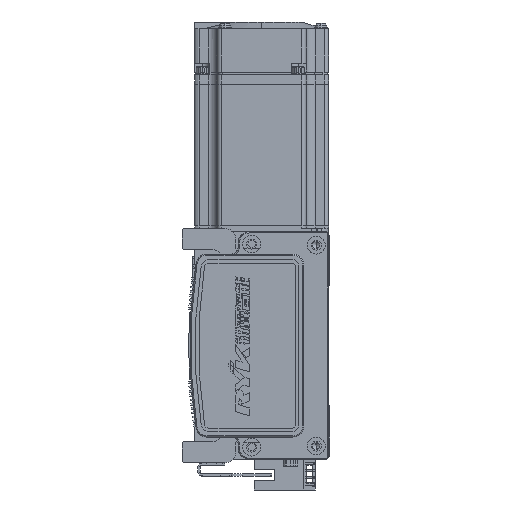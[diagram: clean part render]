
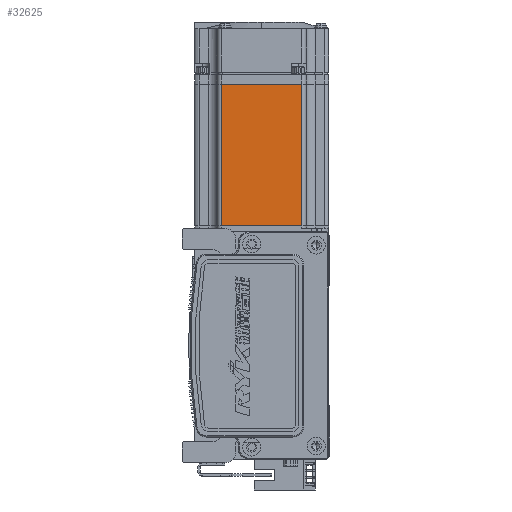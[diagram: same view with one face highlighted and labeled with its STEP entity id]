
A CAD part, left-side view. The second image highlights one B-rep face of the part: STEP entity #32625.
In plain terms, the highlighted planar face has unit normal (-1, 0, 0) as drawn and (0, 0, -1) by its records, which use the part's own axes.
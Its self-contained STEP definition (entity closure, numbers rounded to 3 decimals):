
#999 = FACE_OUTER_BOUND ( 'NONE', #7479, .T. ) ;
#1330 = CARTESIAN_POINT ( 'NONE',  ( -6.5, -18., -30. ) ) ;
#1529 = AXIS2_PLACEMENT_3D ( 'NONE', #65981, #71247, #33475 ) ;
#1819 = LINE ( 'NONE', #60696, #55996 ) ;
#3503 = ORIENTED_EDGE ( 'NONE', *, *, #11335, .T. ) ;
#4294 = CARTESIAN_POINT ( 'NONE',  ( -70.95, -18., -30. ) ) ;
#6016 = VECTOR ( 'NONE', #56654, 1000. ) ;
#6767 = CARTESIAN_POINT ( 'NONE',  ( -70.95, 25., -30. ) ) ;
#7049 = VERTEX_POINT ( 'NONE', #4294 ) ;
#7479 = EDGE_LOOP ( 'NONE', ( #44964, #42645, #45218, #3503 ) ) ;
#8066 = DIRECTION ( 'NONE',  ( 1., 0., 0. ) ) ;
#8846 = EDGE_CURVE ( 'NONE', #15119, #21752, #1819, .T. ) ;
#11335 = EDGE_CURVE ( 'NONE', #19793, #15119, #35870, .T. ) ;
#12603 = CARTESIAN_POINT ( 'NONE',  ( -7.75, 18., -30. ) ) ;
#15119 = VERTEX_POINT ( 'NONE', #12603 ) ;
#15252 = VECTOR ( 'NONE', #8066, 1000. ) ;
#19382 = VECTOR ( 'NONE', #39969, 1000. ) ;
#19793 = VERTEX_POINT ( 'NONE', #23521 ) ;
#20637 = LINE ( 'NONE', #1330, #6016 ) ;
#21093 = LINE ( 'NONE', #6767, #19382 ) ;
#21752 = VERTEX_POINT ( 'NONE', #55208 ) ;
#23521 = CARTESIAN_POINT ( 'NONE',  ( -70.95, 18., -30. ) ) ;
#27101 = EDGE_CURVE ( 'NONE', #21752, #7049, #20637, .T. ) ;
#30245 = EDGE_CURVE ( 'NONE', #7049, #19793, #21093, .T. ) ;
#32625 = ADVANCED_FACE ( 'NONE', ( #999 ), #54859, .T. ) ;
#33475 = DIRECTION ( 'NONE',  ( -1., 0., 0. ) ) ;
#35870 = LINE ( 'NONE', #46108, #15252 ) ;
#39969 = DIRECTION ( 'NONE',  ( 0., 1., 0. ) ) ;
#42645 = ORIENTED_EDGE ( 'NONE', *, *, #27101, .T. ) ;
#44964 = ORIENTED_EDGE ( 'NONE', *, *, #8846, .T. ) ;
#45218 = ORIENTED_EDGE ( 'NONE', *, *, #30245, .T. ) ;
#46108 = CARTESIAN_POINT ( 'NONE',  ( -6.5, 18., -30. ) ) ;
#50375 = DIRECTION ( 'NONE',  ( 0., -1., 0. ) ) ;
#54859 = PLANE ( 'NONE',  #1529 ) ;
#55208 = CARTESIAN_POINT ( 'NONE',  ( -7.75, -18., -30. ) ) ;
#55996 = VECTOR ( 'NONE', #50375, 1000. ) ;
#56654 = DIRECTION ( 'NONE',  ( -1., 0., 0. ) ) ;
#60696 = CARTESIAN_POINT ( 'NONE',  ( -7.75, 25., -30. ) ) ;
#65981 = CARTESIAN_POINT ( 'NONE',  ( -6.5, 25., -30. ) ) ;
#71247 = DIRECTION ( 'NONE',  ( 0., 0., -1. ) ) ;
